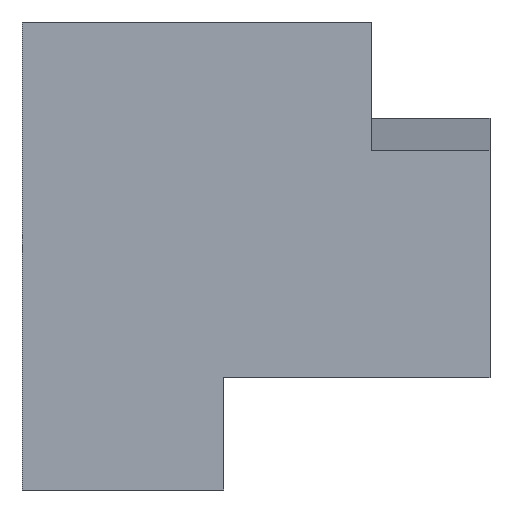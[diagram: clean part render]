
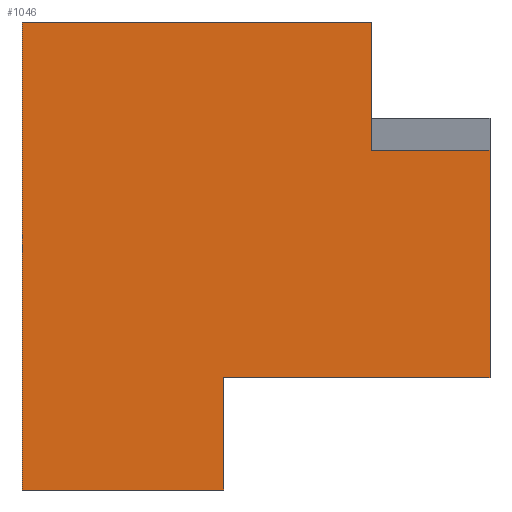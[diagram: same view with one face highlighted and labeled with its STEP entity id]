
A CAD part, left-side view. The second image highlights one B-rep face of the part: STEP entity #1046.
In plain terms, the highlighted planar face has unit normal (-1, 0, 0).
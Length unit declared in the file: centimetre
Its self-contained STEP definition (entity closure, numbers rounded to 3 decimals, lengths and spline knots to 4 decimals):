
#44 = PLANE ( 'NONE',  #909 ) ;
#55 = ORIENTED_EDGE ( 'NONE', *, *, #488, .T. ) ;
#61 = VERTEX_POINT ( 'NONE', #174 ) ;
#69 = CARTESIAN_POINT ( 'NONE',  ( 0., 568.9416, 0. ) ) ;
#71 = VERTEX_POINT ( 'NONE', #529 ) ;
#92 = ORIENTED_EDGE ( 'NONE', *, *, #492, .F. ) ;
#94 = DIRECTION ( 'NONE',  ( 0., -1., 0. ) ) ;
#97 = CARTESIAN_POINT ( 'NONE',  ( 0., 0., 1000. ) ) ;
#154 = CARTESIAN_POINT ( 'NONE',  ( 0., 252.2545, 726.4956 ) ) ;
#167 = CARTESIAN_POINT ( 'NONE',  ( 0., 1000., 1000. ) ) ;
#174 = CARTESIAN_POINT ( 'NONE',  ( 0., 1000., 1000. ) ) ;
#181 = VERTEX_POINT ( 'NONE', #154 ) ;
#187 = VECTOR ( 'NONE', #443, 100. ) ;
#197 = VERTEX_POINT ( 'NONE', #69 ) ;
#236 = ORIENTED_EDGE ( 'NONE', *, *, #505, .F. ) ;
#252 = EDGE_CURVE ( 'NONE', #712, #181, #753, .T. ) ;
#265 = LINE ( 'NONE', #843, #722 ) ;
#277 = VECTOR ( 'NONE', #298, 100. ) ;
#291 = VECTOR ( 'NONE', #94, 100. ) ;
#295 = DIRECTION ( 'NONE',  ( 1., 0., 0. ) ) ;
#298 = DIRECTION ( 'NONE',  ( 0., -1., 0. ) ) ;
#306 = VECTOR ( 'NONE', #1103, 100. ) ;
#318 = CARTESIAN_POINT ( 'NONE',  ( 0., 252.2545, 726.4956 ) ) ;
#343 = DIRECTION ( 'NONE',  ( 0., 0., -1. ) ) ;
#364 = ORIENTED_EDGE ( 'NONE', *, *, #252, .F. ) ;
#370 = CARTESIAN_POINT ( 'NONE',  ( 0., 252.2545, 726.4956 ) ) ;
#388 = DIRECTION ( 'NONE',  ( 0., 0., -1. ) ) ;
#406 = ORIENTED_EDGE ( 'NONE', *, *, #1043, .F. ) ;
#439 = CARTESIAN_POINT ( 'NONE',  ( 0., 0., 239.9028 ) ) ;
#443 = DIRECTION ( 'NONE',  ( 0., 0., -1. ) ) ;
#462 = CARTESIAN_POINT ( 'NONE',  ( 0., 1000., 1000. ) ) ;
#488 = EDGE_CURVE ( 'NONE', #71, #858, #515, .T. ) ;
#489 = VECTOR ( 'NONE', #844, 100. ) ;
#492 = EDGE_CURVE ( 'NONE', #71, #197, #265, .T. ) ;
#505 = EDGE_CURVE ( 'NONE', #61, #712, #1117, .T. ) ;
#515 = LINE ( 'NONE', #678, #291 ) ;
#529 = CARTESIAN_POINT ( 'NONE',  ( 0., 568.9416, 239.9028 ) ) ;
#547 = ORIENTED_EDGE ( 'NONE', *, *, #842, .F. ) ;
#579 = CARTESIAN_POINT ( 'NONE',  ( 0., 252.2545, 1000. ) ) ;
#600 = EDGE_LOOP ( 'NONE', ( #92, #55, #547, #406, #364, #236, #726, #879 ) ) ;
#621 = CARTESIAN_POINT ( 'NONE',  ( 0., 1000., 1000. ) ) ;
#630 = LINE ( 'NONE', #752, #306 ) ;
#678 = CARTESIAN_POINT ( 'NONE',  ( 0., 568.9416, 239.9028 ) ) ;
#712 = VERTEX_POINT ( 'NONE', #579 ) ;
#722 = VECTOR ( 'NONE', #343, 100. ) ;
#726 = ORIENTED_EDGE ( 'NONE', *, *, #1018, .T. ) ;
#734 = CARTESIAN_POINT ( 'NONE',  ( 0., 0., 726.4956 ) ) ;
#737 = CARTESIAN_POINT ( 'NONE',  ( 0., 1000., 0. ) ) ;
#752 = CARTESIAN_POINT ( 'NONE',  ( 0., 1000., 0. ) ) ;
#753 = LINE ( 'NONE', #318, #489 ) ;
#758 = VERTEX_POINT ( 'NONE', #734 ) ;
#771 = DIRECTION ( 'NONE',  ( 0., -1., 0. ) ) ;
#788 = EDGE_CURVE ( 'NONE', #980, #197, #630, .T. ) ;
#803 = LINE ( 'NONE', #462, #1020 ) ;
#810 = FACE_OUTER_BOUND ( 'NONE', #600, .T. ) ;
#842 = EDGE_CURVE ( 'NONE', #758, #858, #1037, .T. ) ;
#843 = CARTESIAN_POINT ( 'NONE',  ( 0., 568.9416, 239.9028 ) ) ;
#844 = DIRECTION ( 'NONE',  ( 0., 0., -1. ) ) ;
#858 = VERTEX_POINT ( 'NONE', #439 ) ;
#879 = ORIENTED_EDGE ( 'NONE', *, *, #788, .T. ) ;
#909 = AXIS2_PLACEMENT_3D ( 'NONE', #621, #295, #971 ) ;
#971 = DIRECTION ( 'NONE',  ( 0., 0., -1. ) ) ;
#980 = VERTEX_POINT ( 'NONE', #737 ) ;
#1018 = EDGE_CURVE ( 'NONE', #61, #980, #803, .T. ) ;
#1020 = VECTOR ( 'NONE', #388, 100. ) ;
#1024 = VECTOR ( 'NONE', #771, 100. ) ;
#1037 = LINE ( 'NONE', #97, #187 ) ;
#1043 = EDGE_CURVE ( 'NONE', #181, #758, #1089, .T. ) ;
#1046 = ADVANCED_FACE ( 'NONE', ( #810 ), #44, .F. ) ;
#1089 = LINE ( 'NONE', #370, #277 ) ;
#1103 = DIRECTION ( 'NONE',  ( 0., -1., 0. ) ) ;
#1117 = LINE ( 'NONE', #167, #1024 ) ;
